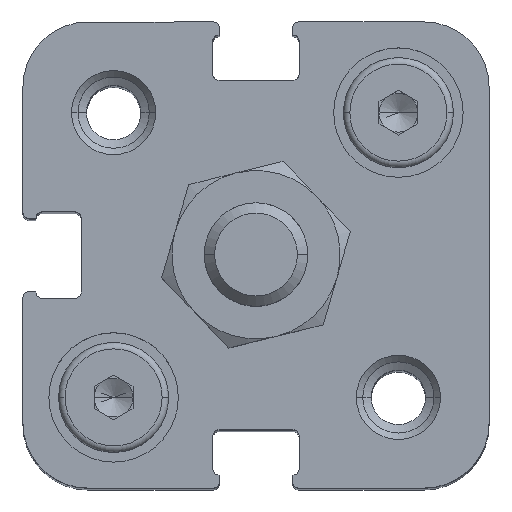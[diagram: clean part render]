
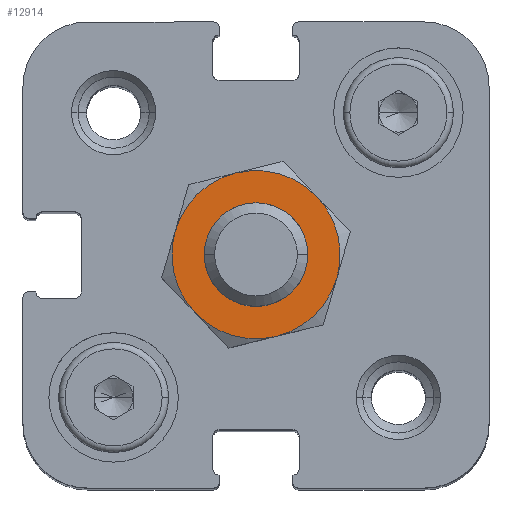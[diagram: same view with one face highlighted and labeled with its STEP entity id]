
A CAD part, top view. The second image highlights one B-rep face of the part: STEP entity #12914.
In plain terms, the highlighted planar face has unit normal (0, 0, 1).
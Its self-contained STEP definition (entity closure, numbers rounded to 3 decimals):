
#3 = AXIS2_PLACEMENT_3D ( 'NONE', #11314, #4036, #1015 ) ;
#129 = VERTEX_POINT ( 'NONE', #927 ) ;
#144 = EDGE_CURVE ( 'NONE', #5722, #129, #13094, .T. ) ;
#389 = ORIENTED_EDGE ( 'NONE', *, *, #13477, .T. ) ;
#443 = VERTEX_POINT ( 'NONE', #12608 ) ;
#617 = DIRECTION ( 'NONE',  ( 0., 0., 1. ) ) ;
#763 = AXIS2_PLACEMENT_3D ( 'NONE', #8927, #4674, #12062 ) ;
#927 = CARTESIAN_POINT ( 'NONE',  ( 6.243, -1.811, 51.545 ) ) ;
#1003 = DIRECTION ( 'NONE',  ( -0.96, 0.279, 0. ) ) ;
#1015 = DIRECTION ( 'NONE',  ( -0.96, 0.279, 0. ) ) ;
#1087 = CARTESIAN_POINT ( 'NONE',  ( 0., 0., 51.545 ) ) ;
#1116 = FACE_OUTER_BOUND ( 'NONE', #3748, .T. ) ;
#1123 = DIRECTION ( 'NONE',  ( 0., 0., -1. ) ) ;
#1144 = ORIENTED_EDGE ( 'NONE', *, *, #5914, .T. ) ;
#1173 = ORIENTED_EDGE ( 'NONE', *, *, #4262, .T. ) ;
#1297 = AXIS2_PLACEMENT_3D ( 'NONE', #1087, #11482, #5196 ) ;
#1850 = AXIS2_PLACEMENT_3D ( 'NONE', #4501, #11751, #5566 ) ;
#1910 = CARTESIAN_POINT ( 'NONE',  ( 0., 0., 51.545 ) ) ;
#2429 = FACE_BOUND ( 'NONE', #4483, .T. ) ;
#2915 = CARTESIAN_POINT ( 'NONE',  ( 0., 0., 51.545 ) ) ;
#3544 = CIRCLE ( 'NONE', #10775, 6.5 ) ;
#3676 = CIRCLE ( 'NONE', #5877, 6.5 ) ;
#3748 = EDGE_LOOP ( 'NONE', ( #389, #4256, #5555, #1173, #1144, #8808 ) ) ;
#3860 = EDGE_CURVE ( 'NONE', #8444, #5722, #13302, .T. ) ;
#4036 = DIRECTION ( 'NONE',  ( 0., 0., 1. ) ) ;
#4256 = ORIENTED_EDGE ( 'NONE', *, *, #3860, .T. ) ;
#4262 = EDGE_CURVE ( 'NONE', #129, #8771, #9867, .T. ) ;
#4308 = AXIS2_PLACEMENT_3D ( 'NONE', #2915, #10241, #13384 ) ;
#4483 = EDGE_LOOP ( 'NONE', ( #5730, #10728 ) ) ;
#4501 = CARTESIAN_POINT ( 'NONE',  ( 0., 0., 51.545 ) ) ;
#4674 = DIRECTION ( 'NONE',  ( 0., 0., 1. ) ) ;
#4773 = CARTESIAN_POINT ( 'NONE',  ( 0., 0., 51.545 ) ) ;
#5032 = CARTESIAN_POINT ( 'NONE',  ( -1.553, 6.312, 51.545 ) ) ;
#5182 = DIRECTION ( 'NONE',  ( -0.96, 0.279, 0. ) ) ;
#5196 = DIRECTION ( 'NONE',  ( -0.96, 0.279, 0. ) ) ;
#5316 = CARTESIAN_POINT ( 'NONE',  ( 1.553, -6.312, 51.545 ) ) ;
#5474 = CIRCLE ( 'NONE', #763, 6.5 ) ;
#5555 = ORIENTED_EDGE ( 'NONE', *, *, #144, .T. ) ;
#5566 = DIRECTION ( 'NONE',  ( -0.96, 0.279, 0. ) ) ;
#5722 = VERTEX_POINT ( 'NONE', #5316 ) ;
#5730 = ORIENTED_EDGE ( 'NONE', *, *, #13085, .T. ) ;
#5877 = AXIS2_PLACEMENT_3D ( 'NONE', #4773, #617, #10025 ) ;
#5914 = EDGE_CURVE ( 'NONE', #8771, #6049, #3676, .T. ) ;
#5998 = CARTESIAN_POINT ( 'NONE',  ( 2.091, 7.208, 51.545 ) ) ;
#6037 = DIRECTION ( 'NONE',  ( 0., 0., 1. ) ) ;
#6049 = VERTEX_POINT ( 'NONE', #5032 ) ;
#6771 = CARTESIAN_POINT ( 'NONE',  ( 4.69, 4.501, 51.545 ) ) ;
#6773 = EDGE_CURVE ( 'NONE', #6049, #443, #5474, .T. ) ;
#7235 = EDGE_CURVE ( 'NONE', #9169, #12194, #9930, .T. ) ;
#8041 = PLANE ( 'NONE',  #10937 ) ;
#8444 = VERTEX_POINT ( 'NONE', #10539 ) ;
#8712 = CARTESIAN_POINT ( 'NONE',  ( 3.842, -1.114, 51.545 ) ) ;
#8771 = VERTEX_POINT ( 'NONE', #6771 ) ;
#8808 = ORIENTED_EDGE ( 'NONE', *, *, #6773, .T. ) ;
#8927 = CARTESIAN_POINT ( 'NONE',  ( 0., 0., 51.545 ) ) ;
#9169 = VERTEX_POINT ( 'NONE', #8712 ) ;
#9219 = DIRECTION ( 'NONE',  ( 0., 0., 1. ) ) ;
#9523 = CARTESIAN_POINT ( 'NONE',  ( -3.842, 1.114, 51.545 ) ) ;
#9867 = CIRCLE ( 'NONE', #1850, 6.5 ) ;
#9917 = CARTESIAN_POINT ( 'NONE',  ( 0., 0., 51.545 ) ) ;
#9930 = CIRCLE ( 'NONE', #13047, 4. ) ;
#10025 = DIRECTION ( 'NONE',  ( -0.96, 0.279, 0. ) ) ;
#10055 = CIRCLE ( 'NONE', #1297, 4. ) ;
#10241 = DIRECTION ( 'NONE',  ( 0., 0., 1. ) ) ;
#10323 = DIRECTION ( 'NONE',  ( 0.96, -0.279, 0. ) ) ;
#10539 = CARTESIAN_POINT ( 'NONE',  ( -4.69, -4.501, 51.545 ) ) ;
#10728 = ORIENTED_EDGE ( 'NONE', *, *, #7235, .T. ) ;
#10775 = AXIS2_PLACEMENT_3D ( 'NONE', #1910, #6037, #5182 ) ;
#10937 = AXIS2_PLACEMENT_3D ( 'NONE', #5998, #9219, #10323 ) ;
#11314 = CARTESIAN_POINT ( 'NONE',  ( 0., 0., 51.545 ) ) ;
#11482 = DIRECTION ( 'NONE',  ( 0., 0., -1. ) ) ;
#11751 = DIRECTION ( 'NONE',  ( 0., 0., 1. ) ) ;
#12062 = DIRECTION ( 'NONE',  ( -0.96, 0.279, 0. ) ) ;
#12194 = VERTEX_POINT ( 'NONE', #9523 ) ;
#12608 = CARTESIAN_POINT ( 'NONE',  ( -6.243, 1.811, 51.545 ) ) ;
#12914 = ADVANCED_FACE ( 'NONE', ( #2429, #1116 ), #8041, .T. ) ;
#13047 = AXIS2_PLACEMENT_3D ( 'NONE', #9917, #1123, #1003 ) ;
#13085 = EDGE_CURVE ( 'NONE', #12194, #9169, #10055, .T. ) ;
#13094 = CIRCLE ( 'NONE', #4308, 6.5 ) ;
#13302 = CIRCLE ( 'NONE', #3, 6.5 ) ;
#13384 = DIRECTION ( 'NONE',  ( -0.96, 0.279, 0. ) ) ;
#13477 = EDGE_CURVE ( 'NONE', #443, #8444, #3544, .T. ) ;
